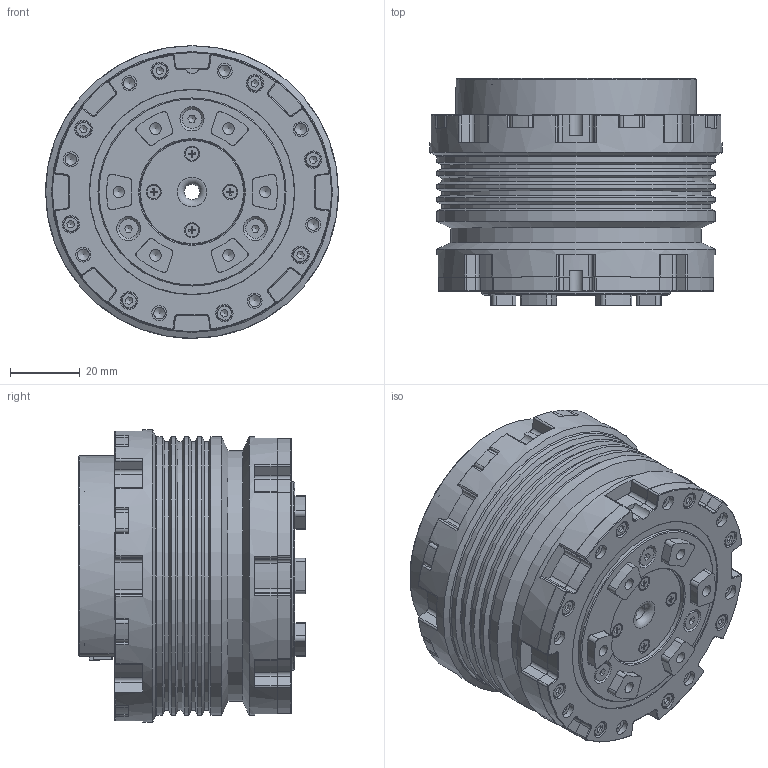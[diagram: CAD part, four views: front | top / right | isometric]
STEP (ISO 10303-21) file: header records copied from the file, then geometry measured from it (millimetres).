
FILE_DESCRIPTION( ('This file contains a STEP AP42 implementation' ,'as created by ZW3D STEP Interface translator.') ,'2;1' );
FILE_NAME( 'PJ3-75-8001.stp' ,'26 3 5. 937 6', (''), ('ZWCAD Software Co.'), 'Version 1.0', 'ZW3D to STEP translator', '' );
FILE_SCHEMA(('AUTOMOTIVE_DESIGN { 1 0 10303 214 1 1 1 1 }'));
Length unit declared in the file: millimetre
Products named in the file (4): 0; PJ3-75-8001; PJ3-75-7001_1; PJ3-75-7002_1
Assembly tree (2 placements, depth 2):
  0
  PJ3-75-8001
    PJ3-75-7001_1
    PJ3-75-7002_1
Bounding box: 84 x 65.1 x 84 mm (x, y, z)
Volume: 89862.8 mm3; surface area: 71839.5 mm2
Topology: 54 solids, 68 shells, 2900 faces, 7386 edges, 4755 vertices
Faces by surface type: plane 1671, cylinder 713, cone 214, bspline 209, torus 77, sphere 16
Full cylindrical faces by diameter (mm): 1.6 x8, 1.74 x4, 2 x4, 2.05 x32, 2.2 x4, 2.208 x8, 2.5 x30, 2.7 x16, 3 x6, 3.2 x3, 3.3 x60, 3.8 x8, 4 x3, 4.3 x4, 4.5 x10, 5 x16, 5.54 x3, 5.9 x6, 6 x8, 6.5 x1, 6.8 x1, 15 x1, 19.2 x1, 30 x2, 33 x1, 40 x1, 41 x1, 54 x1, 57 x1, 59 x2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
Entity records: 95784 total; most frequent: CARTESIAN_POINT 23165, ORIENTED_EDGE 14646, DIRECTION 13821, EDGE_CURVE 7323, VECTOR 4893, LINE 4893, VERTEX_POINT 4765, AXIS2_PLACEMENT_3D 4464
